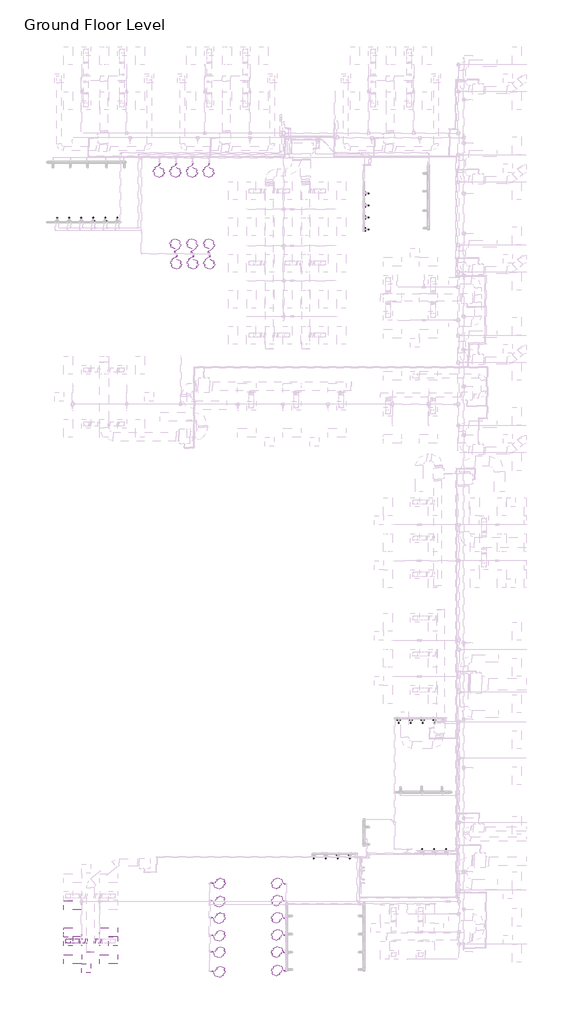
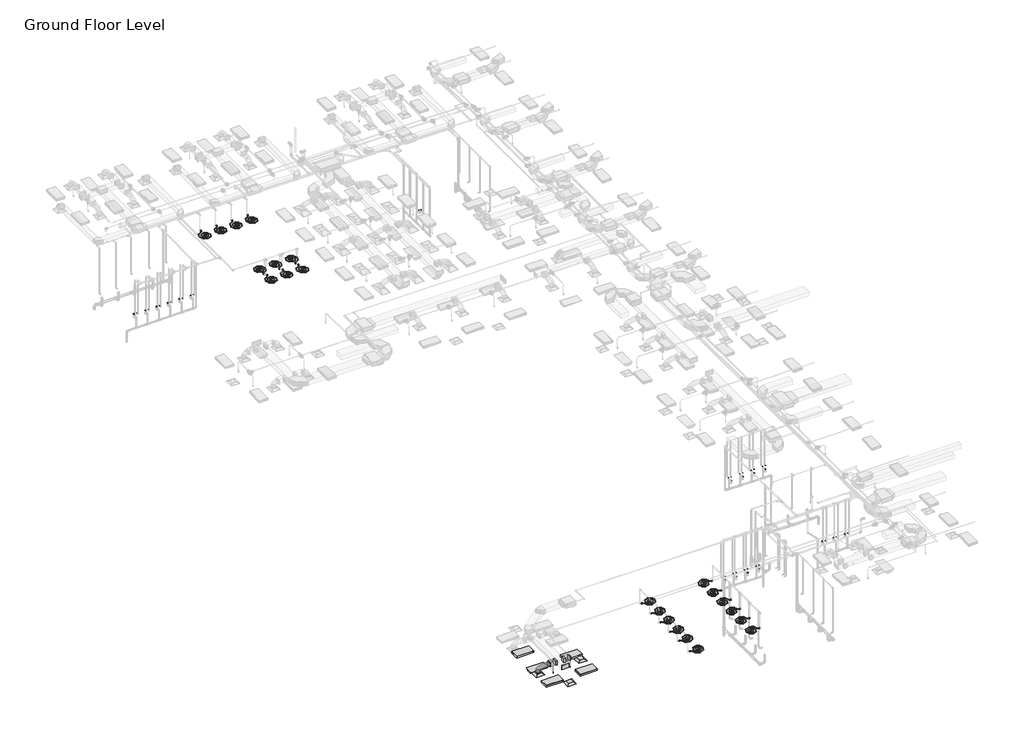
# One storey, part 1 of 75: 43 flow terminals, 6 duct fittings, 5 light fixtures, 3 air terminals, 3 duct segments, 2 fire suppression terminals, 2 pipe segments.
"""IFC4 building model written with IfcOpenShell, lengths in millimetres."""

from ifc_helpers import new_model, si_unit, point, frame, frame_2d, origin, place, context, project, spatial, polyline, circle_curve, ellipse_curve, trimmed, segment, composite_curve, outline, extrude, transform, mapped, element, save
from ifc_brep_helpers import plane_surface, cylinder_surface, advanced_brep
from components import m_return_diffuser_600_x_600_face_300_x_300_connection_ff221211, m_rectangular_endcap_standard_72d4d00d, m_rectangular_takeoff_standard_cb0ccb98, m_rectangular_takeoff_standard_2be5eba1, m_rectangular_to_round_transition_angle_45_degree_641efff0, m_sprinkler_dry_pendent_hosted_15_mm_dry_pendent_9bda8e11, lavatory_unit_m_type_1_c53317d3, shower_m_shower_m_c8aa42c7, m_emergency_recessed_lighting_fixture_600x1200_277_5b10b25d, m_troffer_light_parabolic_rectangular1_0600x1200mm_4_lamp_86473d4a

model = new_model("IFC4")

# Units and contexts
model_context = context("Model", 3, world=origin())
ifc_project = project(units=[si_unit("LENGTHUNIT", "METRE", prefix="MILLI")], contexts=[model_context])

# Site, building, storey
site = spatial("IfcSite", under=ifc_project)
building = spatial("IfcBuilding", under=site)
storey = spatial("IfcBuildingStorey", under=building, Name="Ground Floor Level", Elevation=900.0)

# Air terminals
placement = place(None, origin())
m_return_diffuser_600_x_600_face_300_x_300_connection_shape = m_return_diffuser_600_x_600_face_300_x_300_connection_ff221211(model_context)
element("IfcAirTerminal", 1, ObjectType="M_Return Diffuser : 600 x 600 Face 300 x 300 Connection", at=placement, inside=storey, context=model_context, shape_type="MappedRepresentation", body=[
    mapped(m_return_diffuser_600_x_600_face_300_x_300_connection_shape, transform((-19137.2327605, -40464.7846466, 3650.0), x_axis=(1.0, 0.0, 0.0), y_axis=(0.0, 1.0, 0.0), z_axis=(0.0, 0.0, 1.0))),
])
element("IfcAirTerminal", 2, ObjectType="M_Supply Diffuser : 600 x 600 Face 300 x 300 Connection", at=placement, inside=storey, context=model_context, shape_type="MappedRepresentation", body=[
    mapped(m_return_diffuser_600_x_600_face_300_x_300_connection_shape, transform((-20337.2327605, -38664.7846466, 3650.0), x_axis=(1.0, 0.0, 0.0), y_axis=(0.0, 1.0, 0.0), z_axis=(0.0, 0.0, 1.0))),
])
element("IfcAirTerminal", 3, ObjectType="M_Supply Diffuser : 600 x 600 Face 300 x 300 Connection", at=placement, inside=storey, context=model_context, shape_type="MappedRepresentation", body=[
    mapped(m_return_diffuser_600_x_600_face_300_x_300_connection_shape, transform((-17337.2327605, -38674.7846466, 3650.0), x_axis=(1.0, 0.0, 0.0), y_axis=(0.0, 1.0, 0.0), z_axis=(0.0, 0.0, 1.0))),
])

# Duct fittings
m_rectangular_endcap_standard_shape = m_rectangular_endcap_standard_72d4d00d(model_context)
element("IfcDuctFitting", 4, ObjectType="M_Rectangular Endcap : Standard", at=placement, inside=storey, context=model_context, shape_type="MappedRepresentation", body=[
    mapped(m_rectangular_endcap_standard_shape, transform((-18834.0450532, -39368.1580197, 4100.0), x_axis=(0.0, -1.0, 0.0), y_axis=(1.0, 0.0, 0.0), z_axis=(0.0, 0.0, 1.0))),
])
m_rectangular_takeoff_standard_shape = m_rectangular_takeoff_standard_cb0ccb98(model_context)
element("IfcDuctFitting", 5, ObjectType="M_Rectangular Takeoff : Standard", at=placement, inside=storey, context=model_context, shape_type="MappedRepresentation", body=[
    mapped(m_rectangular_takeoff_standard_shape, transform((-18584.0450532, -38664.7846466, 4100.0), x_axis=(1.0, 0.0, 0.0), y_axis=(0.0, -1.0, 0.0), z_axis=(0.0, 0.0, -1.0))),
])
m_rectangular_takeoff_standard_2_shape = m_rectangular_takeoff_standard_2be5eba1(model_context)
element("IfcDuctFitting", 6, ObjectType="M_Rectangular Takeoff : Standard", at=placement, inside=storey, context=model_context, shape_type="MappedRepresentation", body=[
    mapped(m_rectangular_takeoff_standard_2_shape, transform((-19084.0450532, -38664.7846466, 4100.0), x_axis=(-1.0, 0.0, 0.0), y_axis=(0.0, 1.0, 0.0), z_axis=(0.0, 0.0, -1.0))),
])
m_rectangular_to_round_transition_angle_45_degree_shape = m_rectangular_to_round_transition_angle_45_degree_641efff0(model_context)
element("IfcDuctFitting", 7, ObjectType="M_Rectangular to Round Transition - Angle : 45 Degree", at=placement, inside=storey, context=model_context, shape_type="MappedRepresentation", body=[
    mapped(m_rectangular_to_round_transition_angle_45_degree_shape, transform((-18164.5686918, -38664.7846466, 4100.0), x_axis=(1.0, 0.0, 0.0), y_axis=(0.0, 1.0, 0.0), z_axis=(0.0, 0.0, 1.0))),
])
element("IfcDuctFitting", 8, ObjectType="M_Rectangular to Round Transition - Angle : 45 Degree", at=placement, inside=storey, context=model_context, shape_type="MappedRepresentation", body=[
    mapped(m_rectangular_to_round_transition_angle_45_degree_shape, transform((-20337.2327605, -38664.7846466, 3751.6), x_axis=(0.0, 0.0, 1.0), y_axis=(-1.0, 0.0, 0.0), z_axis=(0.0, -1.0, 0.0))),
])
element("IfcDuctFitting", 9, ObjectType="M_Rectangular to Round Transition - Angle : 45 Degree", at=placement, inside=storey, context=model_context, shape_type="MappedRepresentation", body=[
    mapped(m_rectangular_to_round_transition_angle_45_degree_shape, transform((-19509.8968292, -38664.7846466, 4100.0), x_axis=(-1.0, 0.0, 0.0), y_axis=(0.0, -1.0, 0.0), z_axis=(0.0, 0.0, 1.0))),
])

# Duct segments
element("IfcDuctSegment", 10, ObjectType="Flex - Round", at=placement, inside=storey, context=model_context, shape_type="AdvancedBrep", body=[
    advanced_brep(
    [(-20187.2327605, -38664.7846466, 3826.6), (-20337.2327605, -38814.7846466, 3826.6), (-20487.2327605, -38664.7846466, 3826.6), (-20337.2327605, -38514.7846466, 3826.6), (-20187.2327605, -38664.7846466, 3832.2944892), (-20337.2327605, -38814.7846466, 3857.9377114), (-20487.2327605, -38664.7846466, 3883.5809337), (-20337.2327605, -38514.7846466, 3857.9377114), (-20186.478849, -38664.7846466, 3834.435049), (-20320.216828, -38814.7846466, 3906.2505728), (-20453.9548069, -38664.7846466, 3978.0660967), (-20320.216828, -38514.7846466, 3906.2505728), (-20168.8270484, -38664.7846466, 3857.8020236), (-20273.0329476, -38814.7846466, 3968.7113131), (-20377.2388469, -38664.7846466, 4079.6206026), (-20273.0329476, -38514.7846466, 3968.7113131), (-20132.5429398, -38664.7846466, 3881.8163788), (-20201.4769955, -38814.7846466, 4016.0700639), (-20270.4110511, -38664.7846466, 4150.3237489), (-20201.4769955, -38514.7846466, 4016.0700639), (-20067.7840843, -38664.7846466, 3906.4925606), (-20111.3448475, -38814.7846466, 4050.4146682), (-20154.9056106, -38664.7846466, 4194.3367758), (-20111.3448475, -38514.7846466, 4050.4146682), (-19981.8714556, -38664.7846466, 3926.0424542), (-20008.4323796, -38814.7846466, 4073.8329691), (-20034.9933036, -38664.7846466, 4221.6234841), (-20008.4323796, -38514.7846466, 4073.8329691), (-19883.3845655, -38664.7846466, 3939.1085462), (-19898.5354679, -38814.7846466, 4088.4128097), (-19913.6863702, -38664.7846466, 4237.7170733), (-19898.5354679, -38514.7846466, 4088.4128097), (-19779.9446601, -38664.7846466, 3946.398915), (-19787.4499883, -38814.7846466, 4096.242033), (-19794.9553164, -38664.7846466, 4246.085151), (-19787.4499883, -38514.7846466, 4096.242033), (-19678.2803236, -38664.7846466, 3949.4222102), (-19680.9718167, -38814.7846466, 4099.4084821), (-19683.6633098, -38664.7846466, 4249.394754), (-19680.9718167, -38514.7846466, 4099.4084821), (-19583.9733214, -38664.7846466, 3950.0028429), (-19584.8968292, -38814.7846466, 4100.0), (-19585.8203371, -38664.7846466, 4249.9971571), (-19584.8968292, -38514.7846466, 4100.0)],
    [
        (0, 1, circle_curve(frame((-20337.2327605, -38664.7846466, 3826.6), z_axis=(0.0, 0.0, -1.0), x_axis=(1.0, 0.0, 0.0)), 150.0)),
        (1, 2, circle_curve(frame((-20337.2327605, -38664.7846466, 3826.6), z_axis=(0.0, 0.0, -1.0), x_axis=(1.0, 0.0, 0.0)), 150.0)),
        (2, 3, circle_curve(frame((-20337.2327605, -38664.7846466, 3826.6), z_axis=(0.0, 0.0, -1.0), x_axis=(1.0, 0.0, 0.0)), 150.0)),
        (3, 0, circle_curve(frame((-20337.2327605, -38664.7846466, 3826.6), z_axis=(0.0, 0.0, -1.0), x_axis=(1.0, 0.0, 0.0)), 150.0)),
        (0, 4),
        (4, 5, ellipse_curve(frame((-20337.2327605, -38664.7846466, 3857.9377114), z_axis=(-0.16851014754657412, 0.0, -0.9856999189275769), x_axis=(0.9856999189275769, 0.0, -0.16851014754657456)), 152.176131, 150.0)),
        (5, 1),
        (5, 6, ellipse_curve(frame((-20337.2327605, -38664.7846466, 3857.9377114), z_axis=(-0.16851014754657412, 0.0, -0.9856999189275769), x_axis=(0.9856999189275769, 0.0, -0.16851014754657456)), 152.176131, 150.0)),
        (6, 2),
        (6, 7, ellipse_curve(frame((-20337.2327605, -38664.7846466, 3857.9377114), z_axis=(-0.16851014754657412, 0.0, -0.9856999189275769), x_axis=(0.9856999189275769, 0.0, -0.16851014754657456)), 152.176131, 150.0)),
        (7, 3),
        (7, 4, ellipse_curve(frame((-20337.2327605, -38664.7846466, 3857.9377114), z_axis=(-0.16851014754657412, 0.0, -0.9856999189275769), x_axis=(0.9856999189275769, 0.0, -0.16851014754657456)), 152.176131, 150.0)),
        (4, 8),
        (8, 9, ellipse_curve(frame((-20320.216828, -38664.7846466, 3906.2505728), z_axis=(-0.47309225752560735, 0.0, -0.881012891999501), x_axis=(0.8810128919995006, 0.0, -0.4730922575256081)), 151.8002519, 150.0)),
        (9, 5),
        (9, 10, ellipse_curve(frame((-20320.216828, -38664.7846466, 3906.2505728), z_axis=(-0.47309225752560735, 0.0, -0.881012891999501), x_axis=(0.8810128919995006, 0.0, -0.4730922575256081)), 151.8002519, 150.0)),
        (10, 6),
        (10, 11, ellipse_curve(frame((-20320.216828, -38664.7846466, 3906.2505728), z_axis=(-0.47309225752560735, 0.0, -0.881012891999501), x_axis=(0.8810128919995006, 0.0, -0.4730922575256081)), 151.8002519, 150.0)),
        (11, 7),
        (11, 8, ellipse_curve(frame((-20320.216828, -38664.7846466, 3906.2505728), z_axis=(-0.47309225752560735, 0.0, -0.881012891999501), x_axis=(0.8810128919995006, 0.0, -0.4730922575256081)), 151.8002519, 150.0)),
        (8, 12),
        (12, 13, ellipse_curve(frame((-20273.0329476, -38664.7846466, 3968.7113131), z_axis=(-0.728787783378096, 0.0, -0.6847396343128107), x_axis=(0.6847396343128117, 0.0, -0.7287877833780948)), 152.1832446, 150.0)),
        (13, 9),
        (13, 14, ellipse_curve(frame((-20273.0329476, -38664.7846466, 3968.7113131), z_axis=(-0.728787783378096, 0.0, -0.6847396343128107), x_axis=(0.6847396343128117, 0.0, -0.7287877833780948)), 152.1832446, 150.0)),
        (14, 10),
        (14, 15, ellipse_curve(frame((-20273.0329476, -38664.7846466, 3968.7113131), z_axis=(-0.728787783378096, 0.0, -0.6847396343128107), x_axis=(0.6847396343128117, 0.0, -0.7287877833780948)), 152.1832446, 150.0)),
        (15, 11),
        (15, 12, ellipse_curve(frame((-20273.0329476, -38664.7846466, 3968.7113131), z_axis=(-0.728787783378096, 0.0, -0.6847396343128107), x_axis=(0.6847396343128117, 0.0, -0.7287877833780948)), 152.1832446, 150.0)),
        (12, 16),
        (16, 17, ellipse_curve(frame((-20201.4769955, -38664.7846466, 4016.0700639), z_axis=(-0.8895859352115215, 0.0, -0.4567678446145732), x_axis=(0.45676784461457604, 0.0, -0.88958593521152)), 150.91705, 150.0)),
        (17, 13),
        (17, 18, ellipse_curve(frame((-20201.4769955, -38664.7846466, 4016.0700639), z_axis=(-0.8895859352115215, 0.0, -0.4567678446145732), x_axis=(0.45676784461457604, 0.0, -0.88958593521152)), 150.91705, 150.0)),
        (18, 14),
        (18, 19, ellipse_curve(frame((-20201.4769955, -38664.7846466, 4016.0700639), z_axis=(-0.8895859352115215, 0.0, -0.4567678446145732), x_axis=(0.45676784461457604, 0.0, -0.88958593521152)), 150.91705, 150.0)),
        (19, 15),
        (19, 16, ellipse_curve(frame((-20201.4769955, -38664.7846466, 4016.0700639), z_axis=(-0.8895859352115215, 0.0, -0.4567678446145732), x_axis=(0.45676784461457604, 0.0, -0.88958593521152)), 150.91705, 150.0)),
        (16, 20),
        (20, 21, ellipse_curve(frame((-20111.3448475, -38664.7846466, 4050.4146682), z_axis=(-0.9571203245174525, 0.0, -0.2896906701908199), x_axis=(0.28969067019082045, 0.0, -0.9571203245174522)), 150.369921, 150.0)),
        (21, 17),
        (21, 22, ellipse_curve(frame((-20111.3448475, -38664.7846466, 4050.4146682), z_axis=(-0.9571203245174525, 0.0, -0.2896906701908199), x_axis=(0.28969067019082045, 0.0, -0.9571203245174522)), 150.369921, 150.0)),
        (22, 18),
        (22, 23, ellipse_curve(frame((-20111.3448475, -38664.7846466, 4050.4146682), z_axis=(-0.9571203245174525, 0.0, -0.2896906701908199), x_axis=(0.28969067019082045, 0.0, -0.9571203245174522)), 150.369921, 150.0)),
        (23, 19),
        (23, 20, ellipse_curve(frame((-20111.3448475, -38664.7846466, 4050.4146682), z_axis=(-0.9571203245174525, 0.0, -0.2896906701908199), x_axis=(0.28969067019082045, 0.0, -0.9571203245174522)), 150.369921, 150.0)),
        (20, 24),
        (24, 25, ellipse_curve(frame((-20008.4323796, -38664.7846466, 4073.8329691), z_axis=(-0.9842313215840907, 0.0, -0.17688613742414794), x_axis=(0.17688613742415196, 0.0, -0.9842313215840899)), 150.1583131, 150.0)),
        (25, 21),
        (25, 26, ellipse_curve(frame((-20008.4323796, -38664.7846466, 4073.8329691), z_axis=(-0.9842313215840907, 0.0, -0.17688613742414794), x_axis=(0.17688613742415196, 0.0, -0.9842313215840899)), 150.1583131, 150.0)),
        (26, 22),
        (26, 27, ellipse_curve(frame((-20008.4323796, -38664.7846466, 4073.8329691), z_axis=(-0.9842313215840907, 0.0, -0.17688613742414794), x_axis=(0.17688613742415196, 0.0, -0.9842313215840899)), 150.1583131, 150.0)),
        (27, 23),
        (27, 24, ellipse_curve(frame((-20008.4323796, -38664.7846466, 4073.8329691), z_axis=(-0.9842313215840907, 0.0, -0.17688613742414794), x_axis=(0.17688613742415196, 0.0, -0.9842313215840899)), 150.1583131, 150.0)),
        (24, 28),
        (28, 29, ellipse_curve(frame((-19898.5354679, -38664.7846466, 4088.4128097), z_axis=(-0.9948906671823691, 0.0, -0.1009582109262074), x_axis=(0.10095821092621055, 0.0, -0.9948906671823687)), 150.0710264, 150.0)),
        (29, 25),
        (29, 30, ellipse_curve(frame((-19898.5354679, -38664.7846466, 4088.4128097), z_axis=(-0.9948906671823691, 0.0, -0.1009582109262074), x_axis=(0.10095821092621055, 0.0, -0.9948906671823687)), 150.0710264, 150.0)),
        (30, 26),
        (30, 31, ellipse_curve(frame((-19898.5354679, -38664.7846466, 4088.4128097), z_axis=(-0.9948906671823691, 0.0, -0.1009582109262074), x_axis=(0.10095821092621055, 0.0, -0.9948906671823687)), 150.0710264, 150.0)),
        (31, 27),
        (31, 28, ellipse_curve(frame((-19898.5354679, -38664.7846466, 4088.4128097), z_axis=(-0.9948906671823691, 0.0, -0.1009582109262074), x_axis=(0.10095821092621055, 0.0, -0.9948906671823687)), 150.0710264, 150.0)),
        (28, 32),
        (32, 33, ellipse_curve(frame((-19787.4499883, -38664.7846466, 4096.242033), z_axis=(-0.9987479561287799, 0.0, -0.05002519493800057), x_axis=(0.05002519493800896, 0.0, -0.9987479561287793)), 150.0309634, 150.0)),
        (33, 29),
        (33, 34, ellipse_curve(frame((-19787.4499883, -38664.7846466, 4096.242033), z_axis=(-0.9987479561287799, 0.0, -0.05002519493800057), x_axis=(0.05002519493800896, 0.0, -0.9987479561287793)), 150.0309634, 150.0)),
        (34, 30),
        (34, 35, ellipse_curve(frame((-19787.4499883, -38664.7846466, 4096.242033), z_axis=(-0.9987479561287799, 0.0, -0.05002519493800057), x_axis=(0.05002519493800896, 0.0, -0.9987479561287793)), 150.0309634, 150.0)),
        (35, 31),
        (35, 32, ellipse_curve(frame((-19787.4499883, -38664.7846466, 4096.242033), z_axis=(-0.9987479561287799, 0.0, -0.05002519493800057), x_axis=(0.05002519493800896, 0.0, -0.9987479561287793)), 150.0309634, 150.0)),
        (32, 36),
        (36, 37, ellipse_curve(frame((-19680.9718167, -38664.7846466, 4099.4084821), z_axis=(-0.9998390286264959, 0.0, -0.017942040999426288), x_axis=(0.01794204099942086, 0.0, -0.999839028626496)), 150.0104193, 150.0)),
        (37, 33),
        (37, 38, ellipse_curve(frame((-19680.9718167, -38664.7846466, 4099.4084821), z_axis=(-0.9998390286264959, 0.0, -0.017942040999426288), x_axis=(0.01794204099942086, 0.0, -0.999839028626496)), 150.0104193, 150.0)),
        (38, 34),
        (38, 39, ellipse_curve(frame((-19680.9718167, -38664.7846466, 4099.4084821), z_axis=(-0.9998390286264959, 0.0, -0.017942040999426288), x_axis=(0.01794204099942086, 0.0, -0.999839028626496)), 150.0104193, 150.0)),
        (39, 35),
        (39, 36, ellipse_curve(frame((-19680.9718167, -38664.7846466, 4099.4084821), z_axis=(-0.9998390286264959, 0.0, -0.017942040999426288), x_axis=(0.01794204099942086, 0.0, -0.999839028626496)), 150.0104193, 150.0)),
        (36, 40),
        (40, 41, circle_curve(frame((-19584.8968292, -38664.7846466, 4100.0), z_axis=(-0.9999810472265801, 0.0, -0.006156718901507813), x_axis=(0.006156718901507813, 0.0, -0.9999810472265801)), 150.0)),
        (41, 37),
        (41, 42, circle_curve(frame((-19584.8968292, -38664.7846466, 4100.0), z_axis=(-0.9999810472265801, 0.0, -0.006156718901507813), x_axis=(0.006156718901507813, 0.0, -0.9999810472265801)), 150.0)),
        (42, 38),
        (42, 43, circle_curve(frame((-19584.8968292, -38664.7846466, 4100.0), z_axis=(-0.9999810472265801, 0.0, -0.006156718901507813), x_axis=(0.006156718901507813, 0.0, -0.9999810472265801)), 150.0)),
        (43, 39),
        (43, 40, circle_curve(frame((-19584.8968292, -38664.7846466, 4100.0), z_axis=(-0.9999810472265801, 0.0, -0.006156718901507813), x_axis=(0.006156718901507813, 0.0, -0.9999810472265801)), 150.0)),
    ],
    [
        plane_surface(frame((-20337.2327605, -38814.7846466, 3826.6), z_axis=(0.0, 0.0, -1.0), x_axis=(1.0, 0.0, 0.0))),
        cylinder_surface(frame((-20337.2327605, -38664.7846466, 3826.6), z_axis=(0.0, 0.0, -1.0), x_axis=(1.0, 0.0, 0.0)), 150.0),
        cylinder_surface(frame((-20337.2327605, -38664.7846466, 3857.9377114), z_axis=(-0.3322008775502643, 0.0, -0.9432086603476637), x_axis=(0.9432086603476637, 0.0, -0.3322008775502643)), 150.0),
        cylinder_surface(frame((-20320.216828, -38664.7846466, 3906.2505728), z_axis=(-0.602762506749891, 0.0, -0.7979206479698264), x_axis=(0.7979206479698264, 0.0, -0.602762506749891)), 150.0),
        cylinder_surface(frame((-20273.0329476, -38664.7846466, 3968.7113131), z_axis=(-0.8339024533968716, 0.0, -0.5519118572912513), x_axis=(0.5519118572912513, 0.0, -0.8339024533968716)), 150.0),
        cylinder_surface(frame((-20201.4769955, -38664.7846466, 4016.0700639), z_axis=(-0.9344582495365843, 0.0, -0.35607271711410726), x_axis=(0.35607271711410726, 0.0, -0.9344582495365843)), 150.0),
        cylinder_surface(frame((-20111.3448475, -38664.7846466, 4050.4146682), z_axis=(-0.9750732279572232, 0.0, -0.2218833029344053), x_axis=(0.2218833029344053, 0.0, -0.9750732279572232)), 150.0),
        cylinder_surface(frame((-20008.4323796, -38664.7846466, 4073.8329691), z_axis=(-0.9913140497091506, 0.0, -0.13151598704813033), x_axis=(0.13151598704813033, 0.0, -0.9913140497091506)), 150.0),
        cylinder_surface(frame((-19898.5354679, -38664.7846466, 4088.4128097), z_axis=(-0.9975255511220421, 0.0, -0.07030487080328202), x_axis=(0.07030487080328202, 0.0, -0.9975255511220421)), 150.0),
        cylinder_surface(frame((-19787.4499883, -38664.7846466, 4096.242033), z_axis=(-0.9995581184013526, 0.0, -0.02972487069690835), x_axis=(0.02972487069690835, 0.0, -0.9995581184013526)), 150.0),
        cylinder_surface(frame((-19680.9718167, -38664.7846466, 4099.4084821), z_axis=(-0.9999810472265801, 0.0, -0.006156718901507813), x_axis=(0.006156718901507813, 0.0, -0.9999810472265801)), 150.0),
        plane_surface(frame((-19584.8968292, -38814.7846466, 4100.0), z_axis=(0.9999810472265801, 0.0, 0.00615671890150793), x_axis=(0.00615671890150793, 0.0, -0.9999810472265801))),
    ],
    [
        (0, [[1, 2, 3, 4]]),
        (1, [[-1, 5, 6, 7]]),
        (1, [[-2, -7, 8, 9]]),
        (1, [[-3, -9, 10, 11]]),
        (1, [[-4, -11, 12, -5]]),
        (2, [[-6, 13, 14, 15]]),
        (2, [[-8, -15, 16, 17]]),
        (2, [[-10, -17, 18, 19]]),
        (2, [[-12, -19, 20, -13]]),
        (3, [[-14, 21, 22, 23]]),
        (3, [[-16, -23, 24, 25]]),
        (3, [[-18, -25, 26, 27]]),
        (3, [[-20, -27, 28, -21]]),
        (4, [[-22, 29, 30, 31]]),
        (4, [[-24, -31, 32, 33]]),
        (4, [[-26, -33, 34, 35]]),
        (4, [[-28, -35, 36, -29]]),
        (5, [[-30, 37, 38, 39]]),
        (5, [[-32, -39, 40, 41]]),
        (5, [[-34, -41, 42, 43]]),
        (5, [[-36, -43, 44, -37]]),
        (6, [[-38, 45, 46, 47]]),
        (6, [[-40, -47, 48, 49]]),
        (6, [[-42, -49, 50, 51]]),
        (6, [[-44, -51, 52, -45]]),
        (7, [[-46, 53, 54, 55]]),
        (7, [[-48, -55, 56, 57]]),
        (7, [[-50, -57, 58, 59]]),
        (7, [[-52, -59, 60, -53]]),
        (8, [[-54, 61, 62, 63]]),
        (8, [[-56, -63, 64, 65]]),
        (8, [[-58, -65, 66, 67]]),
        (8, [[-60, -67, 68, -61]]),
        (9, [[-62, 69, 70, 71]]),
        (9, [[-64, -71, 72, 73]]),
        (9, [[-66, -73, 74, 75]]),
        (9, [[-68, -75, 76, -69]]),
        (10, [[-70, 77, 78, 79]]),
        (10, [[-72, -79, 80, 81]]),
        (10, [[-74, -81, 82, 83]]),
        (10, [[-76, -83, 84, -77]]),
        (11, [[-84, -82, -80, -78]]),
    ],
),
])
element("IfcDuctSegment", 11, ObjectType="Radius Elbows / Taps", at=placement, inside=storey, context=model_context, shape_type="SweptSolid", body=[
    extrude(outline(polyline([(-19185.6450532, -38514.7846466), (-19185.6450532, -38814.7846466), (-19509.8968292, -38814.7846466), (-19509.8968292, -38514.7846466), (-19185.6450532, -38514.7846466)])), frame((0.0, 0.0, 3950.0), z_axis=(0.0, 0.0, 1.0), x_axis=(1.0, 0.0, 0.0)), (0.0, 0.0, 1.0), 300.0),
])
element("IfcDuctSegment", 12, ObjectType="Radius Elbows / Taps", at=placement, inside=storey, context=model_context, shape_type="SweptSolid", body=[
    extrude(outline(polyline([(-18482.4450532, -38814.7846466), (-18482.4450532, -38514.7846466), (-18164.5686918, -38514.7846466), (-18164.5686918, -38814.7846466), (-18482.4450532, -38814.7846466)])), frame((0.0, 0.0, 3950.0), z_axis=(0.0, 0.0, 1.0), x_axis=(1.0, 0.0, 0.0)), (0.0, 0.0, 1.0), 300.0),
])

# Fire suppression terminals
m_sprinkler_dry_pendent_hosted_15_mm_dry_pendent_shape = m_sprinkler_dry_pendent_hosted_15_mm_dry_pendent_9bda8e11(model_context)
element("IfcFireSuppressionTerminal", 13, ObjectType="M_Sprinkler - Dry - Pendent - Hosted : 15 mm Dry Pendent", at=placement, inside=storey, context=model_context, shape_type="MappedRepresentation", body=[
    mapped(m_sprinkler_dry_pendent_hosted_15_mm_dry_pendent_shape, transform((-18237.2327605, -38964.7846466, 3650.0), x_axis=(1.0, 0.0, 0.0), y_axis=(0.0, -1.0, 0.0), z_axis=(0.0, 0.0, -1.0))),
])
element("IfcFireSuppressionTerminal", 14, ObjectType="M_Sprinkler - Dry - Pendent - Hosted : 15 mm Dry Pendent", at=placement, inside=storey, context=model_context, shape_type="MappedRepresentation", body=[
    mapped(m_sprinkler_dry_pendent_hosted_15_mm_dry_pendent_shape, transform((-19437.2327605, -38964.7846466, 3650.0), x_axis=(1.0, 0.0, 0.0), y_axis=(0.0, -1.0, 0.0), z_axis=(0.0, 0.0, -1.0))),
])

# Flow terminals
lavatory_unit_m_type_1_shape = lavatory_unit_m_type_1_c53317d3(model_context)
element("IfcFlowTerminal", 15, ObjectType="Lavatory Unit-M : Type 1", at=placement, inside=storey, context=model_context, shape_type="MappedRepresentation", body=[
    mapped(lavatory_unit_m_type_1_shape, transform((-21186.2502, 9255.2153534, 920.0), x_axis=(1.0, 0.0, 0.0), y_axis=(0.0, 1.0, 0.0), z_axis=(0.0, 0.0, 1.0))),
])
element("IfcFlowTerminal", 16, ObjectType="Lavatory Unit-M : Type 1", at=placement, inside=storey, context=model_context, shape_type="MappedRepresentation", body=[
    mapped(lavatory_unit_m_type_1_shape, transform((-20386.2502, 9255.2153534, 920.0), x_axis=(1.0, 0.0, 0.0), y_axis=(0.0, 1.0, 0.0), z_axis=(0.0, 0.0, 1.0))),
])
element("IfcFlowTerminal", 17, ObjectType="Lavatory Unit-M : Type 1", at=placement, inside=storey, context=model_context, shape_type="MappedRepresentation", body=[
    mapped(lavatory_unit_m_type_1_shape, transform((-537.2327605, 8796.1979139, 920.0), x_axis=(0.0, -1.0, 0.0), y_axis=(1.0, 0.0, 0.0), z_axis=(0.0, 0.0, 1.0))),
])
element("IfcFlowTerminal", 18, ObjectType="Lavatory Unit-M : Type 1", at=placement, inside=storey, context=model_context, shape_type="MappedRepresentation", body=[
    mapped(lavatory_unit_m_type_1_shape, transform((-19586.2502, 9255.2153534, 920.0), x_axis=(1.0, 0.0, 0.0), y_axis=(0.0, 1.0, 0.0), z_axis=(0.0, 0.0, 1.0))),
])
element("IfcFlowTerminal", 19, ObjectType="Lavatory Unit-M : Type 1", at=placement, inside=storey, context=model_context, shape_type="MappedRepresentation", body=[
    mapped(lavatory_unit_m_type_1_shape, transform((-18786.2502, 9255.2153534, 920.0), x_axis=(1.0, 0.0, 0.0), y_axis=(0.0, 1.0, 0.0), z_axis=(0.0, 0.0, 1.0))),
])
element("IfcFlowTerminal", 20, ObjectType="Lavatory Unit-M : Type 1", at=placement, inside=storey, context=model_context, shape_type="MappedRepresentation", body=[
    mapped(lavatory_unit_m_type_1_shape, transform((-17986.2502, 9255.2153534, 920.0), x_axis=(1.0, 0.0, 0.0), y_axis=(0.0, 1.0, 0.0), z_axis=(0.0, 0.0, 1.0))),
])
element("IfcFlowTerminal", 21, ObjectType="Lavatory Unit-M : Type 1", at=placement, inside=storey, context=model_context, shape_type="MappedRepresentation", body=[
    mapped(lavatory_unit_m_type_1_shape, transform((-17186.2502, 9255.2153534, 920.0), x_axis=(1.0, 0.0, 0.0), y_axis=(0.0, 1.0, 0.0), z_axis=(0.0, 0.0, 1.0))),
])
element("IfcFlowTerminal", 22, ObjectType="Lavatory Unit-M : Type 1", at=placement, inside=storey, context=model_context, shape_type="MappedRepresentation", body=[
    mapped(lavatory_unit_m_type_1_shape, transform((-537.2327605, 9596.1979139, 920.0), x_axis=(0.0, -1.0, 0.0), y_axis=(1.0, 0.0, 0.0), z_axis=(0.0, 0.0, 1.0))),
])
element("IfcFlowTerminal", 23, ObjectType="Lavatory Unit-M : Type 1", at=placement, inside=storey, context=model_context, shape_type="MappedRepresentation", body=[
    mapped(lavatory_unit_m_type_1_shape, transform((-537.2327605, 10396.1979139, 920.0), x_axis=(0.0, -1.0, 0.0), y_axis=(1.0, 0.0, 0.0), z_axis=(0.0, 0.0, 1.0))),
])
element("IfcFlowTerminal", 24, ObjectType="Lavatory Unit-M : Type 1", at=placement, inside=storey, context=model_context, shape_type="MappedRepresentation", body=[
    mapped(lavatory_unit_m_type_1_shape, transform((-537.2327605, 11196.1979139, 920.0), x_axis=(0.0, -1.0, 0.0), y_axis=(1.0, 0.0, 0.0), z_axis=(0.0, 0.0, 1.0))),
])
element("IfcFlowTerminal", 25, ObjectType="Lavatory Unit-M : Type 1", at=placement, inside=storey, context=model_context, shape_type="MappedRepresentation", body=[
    mapped(lavatory_unit_m_type_1_shape, transform((1803.7498, -23964.7846466, 920.0), x_axis=(-1.0, 0.0, 0.0), y_axis=(0.0, -1.0, 0.0), z_axis=(0.0, 0.0, 1.0))),
])
element("IfcFlowTerminal", 26, ObjectType="Lavatory Unit-M : Type 1", at=placement, inside=storey, context=model_context, shape_type="MappedRepresentation", body=[
    mapped(lavatory_unit_m_type_1_shape, transform((2603.7498, -23964.7846466, 920.0), x_axis=(-1.0, 0.0, 0.0), y_axis=(0.0, -1.0, 0.0), z_axis=(0.0, 0.0, 1.0))),
])
element("IfcFlowTerminal", 27, ObjectType="Lavatory Unit-M : Type 1", at=placement, inside=storey, context=model_context, shape_type="MappedRepresentation", body=[
    mapped(lavatory_unit_m_type_1_shape, transform((3403.7498, -23964.7846466, 920.0), x_axis=(-1.0, 0.0, 0.0), y_axis=(0.0, -1.0, 0.0), z_axis=(0.0, 0.0, 1.0))),
])
element("IfcFlowTerminal", 28, ObjectType="Lavatory Unit-M : Type 1", at=placement, inside=storey, context=model_context, shape_type="MappedRepresentation", body=[
    mapped(lavatory_unit_m_type_1_shape, transform((4203.7498, -23964.7846466, 920.0), x_axis=(-1.0, 0.0, 0.0), y_axis=(0.0, -1.0, 0.0), z_axis=(0.0, 0.0, 1.0))),
])
element("IfcFlowTerminal", 29, ObjectType="Lavatory Unit-M : Type 1", at=placement, inside=storey, context=model_context, shape_type="MappedRepresentation", body=[
    mapped(lavatory_unit_m_type_1_shape, transform((4701.7846789, -32744.7846466, 920.0), x_axis=(1.0, 0.0, 0.0), y_axis=(0.0, 1.0, 0.0), z_axis=(0.0, 0.0, 1.0))),
])
element("IfcFlowTerminal", 30, ObjectType="Lavatory Unit-M : Type 1", at=placement, inside=storey, context=model_context, shape_type="MappedRepresentation", body=[
    mapped(lavatory_unit_m_type_1_shape, transform((3901.7846789, -32744.7846466, 920.0), x_axis=(1.0, 0.0, 0.0), y_axis=(0.0, 1.0, 0.0), z_axis=(0.0, 0.0, 1.0))),
])
element("IfcFlowTerminal", 31, ObjectType="Lavatory Unit-M : Type 1", at=placement, inside=storey, context=model_context, shape_type="MappedRepresentation", body=[
    mapped(lavatory_unit_m_type_1_shape, transform((3101.7846789, -32744.7846466, 920.0), x_axis=(1.0, 0.0, 0.0), y_axis=(0.0, 1.0, 0.0), z_axis=(0.0, 0.0, 1.0))),
])
element("IfcFlowTerminal", 32, ObjectType="Lavatory Unit-M : Type 1", at=placement, inside=storey, context=model_context, shape_type="MappedRepresentation", body=[
    mapped(lavatory_unit_m_type_1_shape, transform((-1448.215321, -32964.7846466, 920.0), x_axis=(-1.0, 0.0, 0.0), y_axis=(0.0, -1.0, 0.0), z_axis=(0.0, 0.0, 1.0))),
])
element("IfcFlowTerminal", 33, ObjectType="Lavatory Unit-M : Type 1", at=placement, inside=storey, context=model_context, shape_type="MappedRepresentation", body=[
    mapped(lavatory_unit_m_type_1_shape, transform((-2248.215321, -32964.7846466, 920.0), x_axis=(-1.0, 0.0, 0.0), y_axis=(0.0, -1.0, 0.0), z_axis=(0.0, 0.0, 1.0))),
])
element("IfcFlowTerminal", 34, ObjectType="Lavatory Unit-M : Type 1", at=placement, inside=storey, context=model_context, shape_type="MappedRepresentation", body=[
    mapped(lavatory_unit_m_type_1_shape, transform((-3048.215321, -32964.7846466, 920.0), x_axis=(-1.0, 0.0, 0.0), y_axis=(0.0, -1.0, 0.0), z_axis=(0.0, 0.0, 1.0))),
])
element("IfcFlowTerminal", 35, ObjectType="Lavatory Unit-M : Type 1", at=placement, inside=storey, context=model_context, shape_type="MappedRepresentation", body=[
    mapped(lavatory_unit_m_type_1_shape, transform((-3848.215321, -32964.7846466, 920.0), x_axis=(-1.0, 0.0, 0.0), y_axis=(0.0, -1.0, 0.0), z_axis=(0.0, 0.0, 1.0))),
])
shower_m_shower_m_shape = shower_m_shower_m_c8aa42c7(model_context)
element("IfcFlowTerminal", 36, ObjectType="Shower-M : Shower-M", at=placement, inside=storey, context=model_context, shape_type="MappedRepresentation", body=[
    mapped(shower_m_shower_m_shape, transform((-10283.9007605, -34799.6019973, 3200.0), x_axis=(-1.0, 0.0, 0.0), y_axis=(0.0, -1.0, 0.0), z_axis=(0.0, 0.0, 1.0))),
])
element("IfcFlowTerminal", 37, ObjectType="Shower-M : Shower-M", at=placement, inside=storey, context=model_context, shape_type="MappedRepresentation", body=[
    mapped(shower_m_shower_m_shape, transform((-10283.9007605, -35999.6019973, 3200.0), x_axis=(-1.0, 0.0, 0.0), y_axis=(0.0, -1.0, 0.0), z_axis=(0.0, 0.0, 1.0))),
])
element("IfcFlowTerminal", 38, ObjectType="Shower-M : Shower-M", at=placement, inside=storey, context=model_context, shape_type="MappedRepresentation", body=[
    mapped(shower_m_shower_m_shape, transform((-10283.9007605, -37099.6019973, 3200.0), x_axis=(-1.0, 0.0, 0.0), y_axis=(0.0, -1.0, 0.0), z_axis=(0.0, 0.0, 1.0))),
])
element("IfcFlowTerminal", 39, ObjectType="Shower-M : Shower-M", at=placement, inside=storey, context=model_context, shape_type="MappedRepresentation", body=[
    mapped(shower_m_shower_m_shape, transform((-10283.9007605, -38269.7846466, 3200.0), x_axis=(-1.0, 0.0, 0.0), y_axis=(0.0, -1.0, 0.0), z_axis=(0.0, 0.0, 1.0))),
])
element("IfcFlowTerminal", 40, ObjectType="Shower-M : Shower-M", at=placement, inside=storey, context=model_context, shape_type="MappedRepresentation", body=[
    mapped(shower_m_shower_m_shape, transform((-10283.9007605, -39369.7846466, 3200.0), x_axis=(-1.0, 0.0, 0.0), y_axis=(0.0, -1.0, 0.0), z_axis=(0.0, 0.0, 1.0))),
])
element("IfcFlowTerminal", 41, ObjectType="Shower-M : Shower-M", at=placement, inside=storey, context=model_context, shape_type="MappedRepresentation", body=[
    mapped(shower_m_shower_m_shape, transform((-10283.9007605, -40669.7846466, 3200.0), x_axis=(-1.0, 0.0, 0.0), y_axis=(0.0, -1.0, 0.0), z_axis=(0.0, 0.0, 1.0))),
])
element("IfcFlowTerminal", 42, ObjectType="Shower-M : Shower-M", at=placement, inside=storey, context=model_context, shape_type="MappedRepresentation", body=[
    mapped(shower_m_shower_m_shape, transform((-6390.5687605, -34864.6926466, 3200.0), x_axis=(1.0, 0.0, 0.0), y_axis=(0.0, 1.0, 0.0), z_axis=(0.0, 0.0, 1.0))),
])
element("IfcFlowTerminal", 43, ObjectType="Shower-M : Shower-M", at=placement, inside=storey, context=model_context, shape_type="MappedRepresentation", body=[
    mapped(shower_m_shower_m_shape, transform((-6390.5687605, -36012.7835466, 3200.0), x_axis=(1.0, 0.0, 0.0), y_axis=(0.0, 1.0, 0.0), z_axis=(0.0, 0.0, 1.0))),
])
element("IfcFlowTerminal", 44, ObjectType="Shower-M : Shower-M", at=placement, inside=storey, context=model_context, shape_type="MappedRepresentation", body=[
    mapped(shower_m_shower_m_shape, transform((-6390.5687605, -37152.7833366, 3200.0), x_axis=(1.0, 0.0, 0.0), y_axis=(0.0, 1.0, 0.0), z_axis=(0.0, 0.0, 1.0))),
])
element("IfcFlowTerminal", 45, ObjectType="Shower-M : Shower-M", at=placement, inside=storey, context=model_context, shape_type="MappedRepresentation", body=[
    mapped(shower_m_shower_m_shape, transform((-6390.5687605, -38292.7833266, 3200.0), x_axis=(1.0, 0.0, 0.0), y_axis=(0.0, 1.0, 0.0), z_axis=(0.0, 0.0, 1.0))),
])
element("IfcFlowTerminal", 46, ObjectType="Shower-M : Shower-M", at=placement, inside=storey, context=model_context, shape_type="MappedRepresentation", body=[
    mapped(shower_m_shower_m_shape, transform((-6390.5687605, -39432.7929166, 3200.0), x_axis=(1.0, 0.0, 0.0), y_axis=(0.0, 1.0, 0.0), z_axis=(0.0, 0.0, 1.0))),
])
element("IfcFlowTerminal", 47, ObjectType="Shower-M : Shower-M", at=placement, inside=storey, context=model_context, shape_type="MappedRepresentation", body=[
    mapped(shower_m_shower_m_shape, transform((-6390.5687605, -40654.7846466, 3200.0), x_axis=(1.0, 0.0, 0.0), y_axis=(0.0, 1.0, 0.0), z_axis=(0.0, 0.0, 1.0))),
])
element("IfcFlowTerminal", 48, ObjectType="Shower-M : Shower-M", at=placement, inside=storey, context=model_context, shape_type="MappedRepresentation", body=[
    mapped(shower_m_shower_m_shape, transform((-14247.2327605, 12535.2153534, 3200.0), x_axis=(0.0, 1.0, 0.0), y_axis=(-1.0, 0.0, 0.0), z_axis=(0.0, 0.0, 1.0))),
])
element("IfcFlowTerminal", 49, ObjectType="Shower-M : Shower-M", at=placement, inside=storey, context=model_context, shape_type="MappedRepresentation", body=[
    mapped(shower_m_shower_m_shape, transform((-13147.2327605, 12535.2153534, 3200.0), x_axis=(0.0, 1.0, 0.0), y_axis=(-1.0, 0.0, 0.0), z_axis=(0.0, 0.0, 1.0))),
])
element("IfcFlowTerminal", 50, ObjectType="Shower-M : Shower-M", at=placement, inside=storey, context=model_context, shape_type="MappedRepresentation", body=[
    mapped(shower_m_shower_m_shape, transform((-12047.2327605, 12535.2153534, 3200.0), x_axis=(0.0, 1.0, 0.0), y_axis=(-1.0, 0.0, 0.0), z_axis=(0.0, 0.0, 1.0))),
])
element("IfcFlowTerminal", 51, ObjectType="Shower-M : Shower-M", at=placement, inside=storey, context=model_context, shape_type="MappedRepresentation", body=[
    mapped(shower_m_shower_m_shape, transform((-10947.2327605, 12535.2153534, 3200.0), x_axis=(0.0, 1.0, 0.0), y_axis=(-1.0, 0.0, 0.0), z_axis=(0.0, 0.0, 1.0))),
])
element("IfcFlowTerminal", 52, ObjectType="Shower-M : Shower-M", at=placement, inside=storey, context=model_context, shape_type="MappedRepresentation", body=[
    mapped(shower_m_shower_m_shape, transform((-13232.2327605, 7645.2153534, 3200.0), x_axis=(0.0, -1.0, 0.0), y_axis=(1.0, 0.0, 0.0), z_axis=(0.0, 0.0, 1.0))),
])
element("IfcFlowTerminal", 53, ObjectType="Shower-M : Shower-M", at=placement, inside=storey, context=model_context, shape_type="MappedRepresentation", body=[
    mapped(shower_m_shower_m_shape, transform((-12122.2327605, 7645.2153534, 3200.0), x_axis=(0.0, -1.0, 0.0), y_axis=(1.0, 0.0, 0.0), z_axis=(0.0, 0.0, 1.0))),
])
element("IfcFlowTerminal", 54, ObjectType="Shower-M : Shower-M", at=placement, inside=storey, context=model_context, shape_type="MappedRepresentation", body=[
    mapped(shower_m_shower_m_shape, transform((-10987.2327605, 7645.2153534, 3200.0), x_axis=(0.0, -1.0, 0.0), y_axis=(1.0, 0.0, 0.0), z_axis=(0.0, 0.0, 1.0))),
])
element("IfcFlowTerminal", 55, ObjectType="Shower-M : Shower-M", at=placement, inside=storey, context=model_context, shape_type="MappedRepresentation", body=[
    mapped(shower_m_shower_m_shape, transform((-10897.2327605, 6425.2153534, 3200.0), x_axis=(0.0, 1.0, 0.0), y_axis=(-1.0, 0.0, 0.0), z_axis=(0.0, 0.0, 1.0))),
])
element("IfcFlowTerminal", 56, ObjectType="Shower-M : Shower-M", at=placement, inside=storey, context=model_context, shape_type="MappedRepresentation", body=[
    mapped(shower_m_shower_m_shape, transform((-11997.2327605, 6435.2153534, 3200.0), x_axis=(0.0, 1.0, 0.0), y_axis=(-1.0, 0.0, 0.0), z_axis=(0.0, 0.0, 1.0))),
])
element("IfcFlowTerminal", 57, ObjectType="Shower-M : Shower-M", at=placement, inside=storey, context=model_context, shape_type="MappedRepresentation", body=[
    mapped(shower_m_shower_m_shape, transform((-13107.2327605, 6435.2153534, 3200.0), x_axis=(0.0, 1.0, 0.0), y_axis=(-1.0, 0.0, 0.0), z_axis=(0.0, 0.0, 1.0))),
])

# Light fixtures
m_emergency_recessed_lighting_fixture_600x1200_277_shape = m_emergency_recessed_lighting_fixture_600x1200_277_5b10b25d(model_context)
element("IfcLightFixture", 58, ObjectType="M_Emergency Recessed Lighting Fixture : 600x1200 - 277", at=placement, inside=storey, context=model_context, shape_type="MappedRepresentation", body=[
    mapped(m_emergency_recessed_lighting_fixture_600x1200_277_shape, transform((-20637.2327605, -37764.7846466, 3650.0), x_axis=(1.0, 0.0, 0.0), y_axis=(0.0, 1.0, 0.0), z_axis=(0.0, 0.0, 1.0))),
])
m_troffer_light_parabolic_rectangular1_0600x1200mm_4_lamp_shape = m_troffer_light_parabolic_rectangular1_0600x1200mm_4_lamp_86473d4a(model_context)
element("IfcLightFixture", 59, ObjectType="M_Troffer Light - Parabolic Rectangular1 : 0600x1200mm(4 Lamp) - 277V 2", at=placement, inside=storey, context=model_context, shape_type="MappedRepresentation", body=[
    mapped(m_troffer_light_parabolic_rectangular1_0600x1200mm_4_lamp_shape, transform((-20018.5292589, -39811.6319125, 3650.0), x_axis=(1.0, 0.0, 0.0), y_axis=(0.0, 1.0, 0.0), z_axis=(0.0, 0.0, 1.0))),
])
element("IfcLightFixture", 60, ObjectType="M_Troffer Light - Parabolic Rectangular1 : 0600x1200mm(4 Lamp) - 277V 2", at=placement, inside=storey, context=model_context, shape_type="MappedRepresentation", body=[
    mapped(m_troffer_light_parabolic_rectangular1_0600x1200mm_4_lamp_shape, transform((-17618.5292589, -39811.6319125, 3650.0), x_axis=(1.0, 0.0, 0.0), y_axis=(0.0, 1.0, 0.0), z_axis=(0.0, 0.0, 1.0))),
])
element("IfcLightFixture", 61, ObjectType="M_Troffer Light - Parabolic Rectangular1 : 0600x1200mm(4 Lamp) - 277V 2", at=placement, inside=storey, context=model_context, shape_type="MappedRepresentation", body=[
    mapped(m_troffer_light_parabolic_rectangular1_0600x1200mm_4_lamp_shape, transform((-17618.5292589, -38011.6319125, 3650.0), x_axis=(1.0, 0.0, 0.0), y_axis=(0.0, 1.0, 0.0), z_axis=(0.0, 0.0, 1.0))),
])
element("IfcLightFixture", 62, ObjectType="M_Troffer Light - Parabolic Rectangular1 : 0600x1200mm(4 Lamp) - 277V 2", at=placement, inside=storey, context=model_context, shape_type="MappedRepresentation", body=[
    mapped(m_troffer_light_parabolic_rectangular1_0600x1200mm_4_lamp_shape, transform((-20018.5292589, -36211.6319125, 3650.0), x_axis=(1.0, 0.0, 0.0), y_axis=(0.0, 1.0, 0.0), z_axis=(0.0, 0.0, 1.0))),
])

# Pipe segments
element("IfcPipeSegment", 63, ObjectType="Steel flanged", at=placement, inside=storey, context=model_context, shape_type="SweptSolid", body=[
    extrude(outline(composite_curve([segment(trimmed(circle_curve(frame_2d((-19437.2327605, -38964.7846466)), 10.668), [point((-19447.9007605, -38964.7846466))], [point((-19437.2327605, -38954.1166466))], False, "CARTESIAN"), True, "CONTINUOUS"), segment(trimmed(circle_curve(frame_2d((-19437.2327605, -38964.7846466)), 10.668), [point((-19437.2327605, -38954.1166466))], [point((-19426.5647605, -38964.7846466))], False, "CARTESIAN"), True, "CONTINUOUS"), segment(trimmed(circle_curve(frame_2d((-19437.2327605, -38964.7846466)), 10.668), [point((-19426.5647605, -38964.7846466))], [point((-19437.2327605, -38975.4526466))], False, "CARTESIAN"), True, "CONTINUOUS"), segment(trimmed(circle_curve(frame_2d((-19437.2327605, -38964.7846466)), 10.668), [point((-19437.2327605, -38975.4526466))], [point((-19447.9007605, -38964.7846466))], False, "CARTESIAN"), True, "CONTINUOUS")], self_intersect=False)), frame((0.0, 0.0, 3650.0), z_axis=(0.0, 0.0, 1.0), x_axis=(1.0, 0.0, 0.0)), (0.0, 0.0, 1.0), 604.4914063),
])
element("IfcPipeSegment", 64, ObjectType="Steel flanged", at=placement, inside=storey, context=model_context, shape_type="SweptSolid", body=[
    extrude(outline(composite_curve([segment(trimmed(circle_curve(frame_2d((-18237.2327605, -38964.7846466)), 10.668), [point((-18247.9007605, -38964.7846466))], [point((-18237.2327605, -38954.1166466))], False, "CARTESIAN"), True, "CONTINUOUS"), segment(trimmed(circle_curve(frame_2d((-18237.2327605, -38964.7846466)), 10.668), [point((-18237.2327605, -38954.1166466))], [point((-18226.5647605, -38964.7846466))], False, "CARTESIAN"), True, "CONTINUOUS"), segment(trimmed(circle_curve(frame_2d((-18237.2327605, -38964.7846466)), 10.668), [point((-18226.5647605, -38964.7846466))], [point((-18237.2327605, -38975.4526466))], False, "CARTESIAN"), True, "CONTINUOUS"), segment(trimmed(circle_curve(frame_2d((-18237.2327605, -38964.7846466)), 10.668), [point((-18237.2327605, -38975.4526466))], [point((-18247.9007605, -38964.7846466))], False, "CARTESIAN"), True, "CONTINUOUS")], self_intersect=False)), frame((0.0, 0.0, 3650.0), z_axis=(0.0, 0.0, 1.0), x_axis=(1.0, 0.0, 0.0)), (0.0, 0.0, 1.0), 604.4914063),
])

save(model, "model.ifc")
